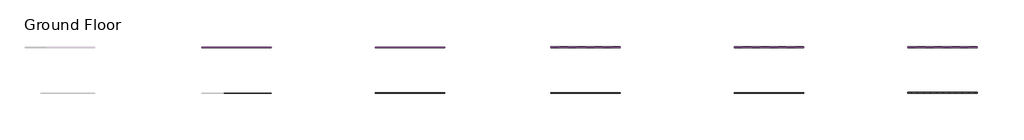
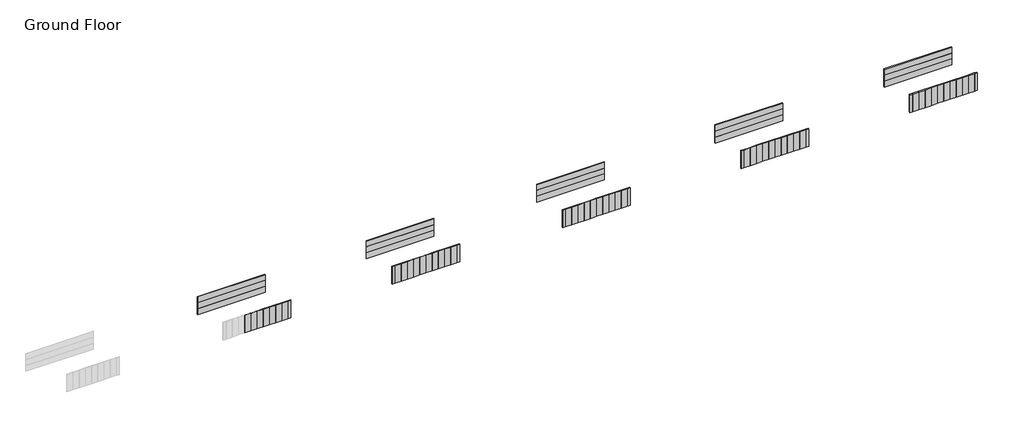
# One storey, part 2 of 11: 71 plates.
"""IFC4 building model written with IfcOpenShell, lengths in millimetres."""

import ifcopenshell
import ifcopenshell.guid

model = None  # the IFC model being written
_history = None  # IfcOwnerHistory: only IFC2X3 demands one
_inside = {}  # id of a spatial element -> (the spatial element, [elements in it])
_under = {}  # id of a project, library or spatial element -> (it, [spatial elements below it])
_declared = {}  # id of a project -> (the project, [libraries it declares])
_typed = {}  # id of a type object -> (the type object, [elements of that type])
_made_of = {}  # id of a material, layer set ... -> (it, [elements and type objects made of it])


def new_model(schema):
    """Start an empty IFC model of exactly this schema.

    Asked for "IFC4X3", IfcOpenShell would pick the latest addendum, in which some entities
    have other attributes; the version numbers below select the first issue.
    IFC2X3 requires an IfcOwnerHistory on every rooted entity: one is made here for all.
    """
    global model, _history
    if schema == "IFC4X3":
        model = ifcopenshell.file(schema_version=(4, 3, 0, 0))
    else:
        model = ifcopenshell.file(schema=schema)
    _inside.clear()
    _under.clear()
    _declared.clear()
    _typed.clear()
    _made_of.clear()
    _history = None
    if model.schema == "IFC2X3":
        org = make("IfcOrganization", Name="unknown")
        user = make(
            "IfcPersonAndOrganization",
            ThePerson=make("IfcPerson", FamilyName="unknown"),
            TheOrganization=org,
        )
        app = make(
            "IfcApplication",
            ApplicationDeveloper=org,
            Version="unknown",
            ApplicationFullName="unknown",
            ApplicationIdentifier="unknown",
        )
        _history = make(
            "IfcOwnerHistory",
            OwningUser=user,
            OwningApplication=app,
            ChangeAction="ADDED",
            CreationDate=0,
        )
    return model


def make(cls, **values):
    """One entity of the class cls with the attributes given. An attribute that is None is left unset."""
    return model.create_entity(
        cls, **{name: value for name, value in values.items() if value is not None}
    )


def rooted(cls, **values):
    """An entity with a GlobalId (a new one), such as an element, a storey or a relation."""
    return make(cls, GlobalId=ifcopenshell.guid.new(), OwnerHistory=_history, **values)


def si_unit(unit_type, name, prefix=None):
    """IfcSIUnit, for example si_unit("LENGTHUNIT", "METRE", prefix="MILLI")."""
    return make("IfcSIUnit", UnitType=unit_type, Prefix=prefix, Name=name)


def assignment(units):
    """IfcUnitAssignment: the units of a project."""
    return None if units is None else make("IfcUnitAssignment", Units=units)


def point(xyz):
    """IfcCartesianPoint."""
    return None if xyz is None else make("IfcCartesianPoint", Coordinates=xyz)


def direction(xyz):
    """IfcDirection."""
    return None if xyz is None else make("IfcDirection", DirectionRatios=xyz)


def frame(location, z_axis=None, x_axis=None):
    """IfcAxis2Placement3D, a coordinate frame: its origin and axes. An axis left out is left unset."""
    return make(
        "IfcAxis2Placement3D",
        Location=point(location),
        Axis=direction(z_axis),
        RefDirection=direction(x_axis),
    )


def origin():
    """The frame at (0, 0, 0) with its axes left unset."""
    return frame((0.0, 0.0, 0.0))


def origin_with_axes():
    """The frame at (0, 0, 0) with the z axis (0, 0, 1) and the x axis (1, 0, 0) written out."""
    return frame((0.0, 0.0, 0.0), z_axis=(0.0, 0.0, 1.0), x_axis=(1.0, 0.0, 0.0))


def place(relative_to, where):
    """IfcLocalPlacement: puts the frame where relative to a parent placement (None: the world)."""
    return make(
        "IfcLocalPlacement", PlacementRelTo=relative_to, RelativePlacement=where
    )


def context(
    kind, dimensions, precision=None, world=None, true_north=None, identifier=None
):
    """IfcGeometricRepresentationContext, for example the 3D "Model" context."""
    return make(
        "IfcGeometricRepresentationContext",
        ContextIdentifier=identifier,
        ContextType=kind,
        CoordinateSpaceDimension=dimensions,
        Precision=precision,
        WorldCoordinateSystem=world,
        TrueNorth=true_north,
    )


def project(units=None, contexts=None):
    """IfcProject with its units and contexts."""
    return rooted(
        "IfcProject",
        Name="project",
        RepresentationContexts=contexts,
        UnitsInContext=assignment(units),
    )


def spatial(cls, under=None, at=None, **own):
    """A site, building, storey or space (cls), placed at a placement, below another one or the project."""
    s = rooted(cls, ObjectPlacement=at, **own)
    if under is not None:
        _under.setdefault(under.id(), (under, []))[1].append(s)
    return s


def polyline(points):
    """IfcPolyline through the points."""
    return make("IfcPolyline", Points=[point(p) for p in points])


def outline(outer, holes=None, kind="AREA"):
    """IfcArbitraryClosedProfileDef: a profile drawn as a closed curve; with holes, ...WithVoids."""
    if holes is None:
        return make("IfcArbitraryClosedProfileDef", ProfileType=kind, OuterCurve=outer)
    return make(
        "IfcArbitraryProfileDefWithVoids",
        ProfileType=kind,
        OuterCurve=outer,
        InnerCurves=holes,
    )


def extrude(swept, where, along, depth):
    """IfcExtrudedAreaSolid: the profile swept, set in the frame where, extruded along a direction by depth."""
    return make(
        "IfcExtrudedAreaSolid",
        SweptArea=swept,
        Position=where,
        ExtrudedDirection=direction(along),
        Depth=depth,
    )


def shape(context_of_items, identifier, shape_type, items):
    """IfcShapeRepresentation: the items that make up one representation, for example the "Body"."""
    return make(
        "IfcShapeRepresentation",
        ContextOfItems=context_of_items,
        RepresentationIdentifier=identifier,
        RepresentationType=shape_type,
        Items=items,
    )


def source(mapping_origin, context_of_items, identifier, shape_type, items):
    """IfcRepresentationMap: a shape defined once, which mapped items show again and again."""
    return make(
        "IfcRepresentationMap",
        MappingOrigin=mapping_origin,
        MappedRepresentation=shape(context_of_items, identifier, shape_type, items),
    )


def transform(
    local_origin,
    x_axis=None,
    y_axis=None,
    z_axis=None,
    scale=None,
    scale2=None,
    scale3=None,
    uniform=True,
):
    """IfcCartesianTransformationOperator3D, or its non-uniform kind. x_axis, y_axis, z_axis: its Axis1, 2, 3."""
    if uniform:
        return make(
            "IfcCartesianTransformationOperator3D",
            Axis1=direction(x_axis),
            Axis2=direction(y_axis),
            LocalOrigin=point(local_origin),
            Scale=scale,
            Axis3=direction(z_axis),
        )
    return make(
        "IfcCartesianTransformationOperator3DnonUniform",
        Axis1=direction(x_axis),
        Axis2=direction(y_axis),
        LocalOrigin=point(local_origin),
        Scale=scale,
        Axis3=direction(z_axis),
        Scale2=scale2,
        Scale3=scale3,
    )


def mapped(mapping_source, mapping_target):
    """IfcMappedItem: shows the shape of a source again, moved by a transform."""
    return make(
        "IfcMappedItem", MappingSource=mapping_source, MappingTarget=mapping_target
    )


def made_of(thing, what):
    """Note that an element or type object is made of a material, layer set ...; save() writes the relation."""
    if what is not None:
        _made_of.setdefault(what.id(), (what, []))[1].append(thing)
    return thing


def element(
    cls,
    number,
    at=None,
    inside=None,
    cuts=None,
    type_object=None,
    material=None,
    context=None,
    identifier="Body",
    shape_type=None,
    held_by="IfcProductDefinitionShape",
    body=None,
    shapes=None,
    **own,
):
    """One element of the class cls, such as IfcWall. Its Tag is "e" and its number.

    at: its placement. inside: the storey or other place that contains it. cuts: it is an
    opening in that element (IfcRelVoidsElement). A single representation is given by context,
    identifier, shape_type and body (its items); several are given by shapes. held_by: the class
    of the entity that holds the representations. save() writes the other relations.
    """
    e = rooted(cls, Tag="e%d" % number, ObjectPlacement=at, **own)
    if body is not None:
        shapes = [shape(context, identifier, shape_type, body)]
    if shapes is not None:
        e.Representation = make(held_by, Representations=shapes)
    if inside is not None:
        _inside.setdefault(inside.id(), (inside, []))[1].append(e)
    if cuts is not None:
        rooted(
            "IfcRelVoidsElement", RelatingBuildingElement=cuts, RelatedOpeningElement=e
        )
    if type_object is not None:
        _typed.setdefault(type_object.id(), (type_object, []))[1].append(e)
    return made_of(e, material)


def aggregate(whole, parts):
    """IfcRelAggregates: a whole, such as a stair, and the parts it consists of."""
    return rooted("IfcRelAggregates", RelatingObject=whole, RelatedObjects=parts)


def save(model, path):
    """Write the relations noted so far, then the file.

    IfcRelAggregates (storeys below a building ...), IfcRelContainedInSpatialStructure (elements
    in a storey), IfcRelDefinesByType, IfcRelAssociatesMaterial and IfcRelDeclares: one each for
    every whole, place, type object, material and project.
    """
    for whole, parts in _under.values():
        aggregate(whole, parts)
    for where, things in _inside.values():
        rooted(
            "IfcRelContainedInSpatialStructure",
            RelatedElements=things,
            RelatingStructure=where,
        )
    for kind, things in _typed.values():
        rooted("IfcRelDefinesByType", RelatedObjects=things, RelatingType=kind)
    for what, things in _made_of.values():
        rooted("IfcRelAssociatesMaterial", RelatedObjects=things, RelatingMaterial=what)
    for by, libraries in _declared.values():
        rooted("IfcRelDeclares", RelatingContext=by, RelatedDefinitions=libraries)
    model.write(path)


def system_panel_6eba0669(model_context):
    return source(origin(), model_context, "Body", "SweptSolid", [
        extrude(outline(polyline([(6000.0, 0.0), (-6000.0, 0.0), (-6000.0, 75.0), (6000.0, 75.0), (6000.0, 0.0)])), origin_with_axes(), (0.0, 0.0, 1.0), 1100.0),
    ])


def system_panel_884e9603(model_context):
    return source(origin(), model_context, "Body", "SweptSolid", [
        extrude(outline(polyline([(6000.0, 0.0), (-6000.0, 0.0), (-6000.0, 150.0), (6000.0, 150.0), (6000.0, 0.0)])), origin_with_axes(), (0.0, 0.0, 1.0), 1100.0),
    ])


def system_panel_50b8ebab(model_context):
    return source(origin(), model_context, "Body", "SweptSolid", [
        extrude(outline(polyline([(6000.0, 0.0), (-6000.0, 0.0), (-6000.0, 200.0), (6000.0, 200.0), (6000.0, 0.0)])), origin_with_axes(), (0.0, 0.0, 1.0), 1100.0),
    ])


def system_panel_92c971d1(model_context):
    return source(origin(), model_context, "Body", "SweptSolid", [
        extrude(outline(polyline([(6000.0, 0.0), (-6000.0, 0.0), (-6000.0, 125.0), (6000.0, 125.0), (6000.0, 0.0)])), origin_with_axes(), (0.0, 0.0, 1.0), 1100.0),
    ])


def system_panel_dae39a37(model_context):
    return source(origin(), model_context, "Body", "SweptSolid", [
        extrude(outline(polyline([(250.0, 0.0), (-250.0, 0.0), (-250.0, 75.0), (250.0, 75.0), (250.0, 0.0)])), origin_with_axes(), (0.0, 0.0, 1.0), 3300.0),
    ])


def system_panel_6d159058(model_context):
    return source(origin(), model_context, "Body", "SweptSolid", [
        extrude(outline(polyline([(550.0, 0.0), (-550.0, 0.0), (-550.0, 75.0), (550.0, 75.0), (550.0, 0.0)])), origin_with_axes(), (0.0, 0.0, 1.0), 3300.0),
    ])


def system_panel_0b45720e(model_context):
    return source(origin(), model_context, "Body", "SweptSolid", [
        extrude(outline(polyline([(6000.0, 0.0), (-6000.0, 0.0), (-6000.0, 100.0), (6000.0, 100.0), (6000.0, 0.0)])), origin_with_axes(), (0.0, 0.0, 1.0), 1100.0),
    ])


def system_panel_6aaf0e04(model_context):
    return source(origin(), model_context, "Body", "SweptSolid", [
        extrude(outline(polyline([(250.0, 0.0), (-250.0, 0.0), (-250.0, 100.0), (250.0, 100.0), (250.0, 0.0)])), origin_with_axes(), (0.0, 0.0, 1.0), 3300.0),
    ])


def system_panel_21b04525(model_context):
    return source(origin(), model_context, "Body", "SweptSolid", [
        extrude(outline(polyline([(550.0, 0.0), (-550.0, 0.0), (-550.0, 100.0), (550.0, 100.0), (550.0, 0.0)])), origin_with_axes(), (0.0, 0.0, 1.0), 3300.0),
    ])


def system_panel_03f7c1e1(model_context):
    return source(origin(), model_context, "Body", "SweptSolid", [
        extrude(outline(polyline([(250.0, 0.0), (-250.0, 0.0), (-250.0, 125.0), (250.0, 125.0), (250.0, 0.0)])), origin_with_axes(), (0.0, 0.0, 1.0), 3300.0),
    ])


def system_panel_6af241ba(model_context):
    return source(origin(), model_context, "Body", "SweptSolid", [
        extrude(outline(polyline([(550.0, 0.0), (-550.0, 0.0), (-550.0, 125.0), (550.0, 125.0), (550.0, 0.0)])), origin_with_axes(), (0.0, 0.0, 1.0), 3300.0),
    ])


def system_panel_1fb53309(model_context):
    return source(origin(), model_context, "Body", "SweptSolid", [
        extrude(outline(polyline([(250.0, 0.0), (-250.0, 0.0), (-250.0, 150.0), (250.0, 150.0), (250.0, 0.0)])), origin_with_axes(), (0.0, 0.0, 1.0), 3300.0),
    ])


def system_panel_07ade12d(model_context):
    return source(origin(), model_context, "Body", "SweptSolid", [
        extrude(outline(polyline([(550.0, 0.0), (-550.0, 0.0), (-550.0, 150.0), (550.0, 150.0), (550.0, 0.0)])), origin_with_axes(), (0.0, 0.0, 1.0), 3300.0),
    ])


def system_panel_2bcd8dc4(model_context):
    return source(origin(), model_context, "Body", "SweptSolid", [
        extrude(outline(polyline([(250.0, 0.0), (-250.0, 0.0), (-250.0, 200.0), (250.0, 200.0), (250.0, 0.0)])), origin_with_axes(), (0.0, 0.0, 1.0), 3300.0),
    ])


def system_panel_894761f5(model_context):
    return source(origin(), model_context, "Body", "SweptSolid", [
        extrude(outline(polyline([(550.0, 0.0), (-550.0, 0.0), (-550.0, 200.0), (550.0, 200.0), (550.0, 0.0)])), origin_with_axes(), (0.0, 0.0, 1.0), 3300.0),
    ])


model = new_model("IFC4")

# Units and contexts
model_context = context("Model", 3, world=origin())
ifc_project = project(units=[si_unit("LENGTHUNIT", "METRE", prefix="MILLI")], contexts=[model_context])

# Site, building, storey
site = spatial("IfcSite", under=ifc_project)
building = spatial("IfcBuilding", under=site)
storey = spatial("IfcBuildingStorey", under=building, Name="Ground Floor", Elevation=0.0)

# Plates
placement = place(None, origin())
system_panel_shape = system_panel_6eba0669(model_context)
element("IfcPlate", 1, ObjectType="System Panel : MetecnoPanel_75mm_Plain_Surfmist", at=placement, inside=storey, context=model_context, shape_type="MappedRepresentation", body=[
    mapped(system_panel_shape, transform((15128.5594541, 14597.4637552, 0.0), x_axis=(1.0, 0.0, 0.0), y_axis=(0.0, 1.0, 0.0), z_axis=(0.0, 0.0, 1.0))),
])
element("IfcPlate", 2, ObjectType="System Panel : MetecnoPanel_75mm_Plain_Surfmist", at=placement, inside=storey, context=model_context, shape_type="MappedRepresentation", body=[
    mapped(system_panel_shape, transform((15128.5594541, 14597.4637552, 1100.0), x_axis=(1.0, 0.0, 0.0), y_axis=(0.0, 1.0, 0.0), z_axis=(0.0, 0.0, 1.0))),
])
element("IfcPlate", 3, ObjectType="System Panel : MetecnoPanel_75mm_Plain_Surfmist", at=placement, inside=storey, context=model_context, shape_type="MappedRepresentation", body=[
    mapped(system_panel_shape, transform((15128.5594541, 14597.4637552, 2200.0), x_axis=(1.0, 0.0, 0.0), y_axis=(0.0, 1.0, 0.0), z_axis=(0.0, 0.0, 1.0))),
])
system_panel_2_shape = system_panel_884e9603(model_context)
element("IfcPlate", 4, ObjectType="System Panel : MetecnoPanel_150mm_Plain_Surfmist", at=placement, inside=storey, context=model_context, shape_type="MappedRepresentation", body=[
    mapped(system_panel_2_shape, transform((107128.5594541, 14597.4637552, 0.0), x_axis=(1.0, 0.0, 0.0), y_axis=(0.0, 1.0, 0.0), z_axis=(0.0, 0.0, 1.0))),
])
element("IfcPlate", 5, ObjectType="System Panel : MetecnoPanel_150mm_Plain_Surfmist", at=placement, inside=storey, context=model_context, shape_type="MappedRepresentation", body=[
    mapped(system_panel_2_shape, transform((107128.5594541, 14597.4637552, 1100.0), x_axis=(1.0, 0.0, 0.0), y_axis=(0.0, 1.0, 0.0), z_axis=(0.0, 0.0, 1.0))),
])
element("IfcPlate", 6, ObjectType="System Panel : MetecnoPanel_150mm_Plain_Surfmist", at=placement, inside=storey, context=model_context, shape_type="MappedRepresentation", body=[
    mapped(system_panel_2_shape, transform((107128.5594541, 14597.4637552, 2200.0), x_axis=(1.0, 0.0, 0.0), y_axis=(0.0, 1.0, 0.0), z_axis=(0.0, 0.0, 1.0))),
])
system_panel_3_shape = system_panel_50b8ebab(model_context)
element("IfcPlate", 7, ObjectType="System Panel : MetecnoPanel_200mm_Plain_Surfmist", at=placement, inside=storey, context=model_context, shape_type="MappedRepresentation", body=[
    mapped(system_panel_3_shape, transform((137128.5594541, 14597.4637552, 0.0), x_axis=(1.0, 0.0, 0.0), y_axis=(0.0, 1.0, 0.0), z_axis=(0.0, 0.0, 1.0))),
])
element("IfcPlate", 8, ObjectType="System Panel : MetecnoPanel_200mm_Plain_Surfmist", at=placement, inside=storey, context=model_context, shape_type="MappedRepresentation", body=[
    mapped(system_panel_3_shape, transform((137128.5594541, 14597.4637552, 1100.0), x_axis=(1.0, 0.0, 0.0), y_axis=(0.0, 1.0, 0.0), z_axis=(0.0, 0.0, 1.0))),
])
element("IfcPlate", 9, ObjectType="System Panel : MetecnoPanel_200mm_Plain_Surfmist", at=placement, inside=storey, context=model_context, shape_type="MappedRepresentation", body=[
    mapped(system_panel_3_shape, transform((137128.5594541, 14597.4637552, 2200.0), x_axis=(1.0, 0.0, 0.0), y_axis=(0.0, 1.0, 0.0), z_axis=(0.0, 0.0, 1.0))),
])
system_panel_4_shape = system_panel_92c971d1(model_context)
element("IfcPlate", 10, ObjectType="System Panel : MetecnoPanel_125mm_Plain_Surfmist", at=placement, inside=storey, context=model_context, shape_type="MappedRepresentation", body=[
    mapped(system_panel_4_shape, transform((75428.5594541, 14597.4637552, 0.0), x_axis=(1.0, 0.0, 0.0), y_axis=(0.0, 1.0, 0.0), z_axis=(0.0, 0.0, 1.0))),
])
element("IfcPlate", 11, ObjectType="System Panel : MetecnoPanel_125mm_Plain_Surfmist", at=placement, inside=storey, context=model_context, shape_type="MappedRepresentation", body=[
    mapped(system_panel_4_shape, transform((75428.5594541, 14597.4637552, 1100.0), x_axis=(1.0, 0.0, 0.0), y_axis=(0.0, 1.0, 0.0), z_axis=(0.0, 0.0, 1.0))),
])
element("IfcPlate", 12, ObjectType="System Panel : MetecnoPanel_125mm_Plain_Surfmist", at=placement, inside=storey, context=model_context, shape_type="MappedRepresentation", body=[
    mapped(system_panel_4_shape, transform((75428.5594541, 14597.4637552, 2200.0), x_axis=(1.0, 0.0, 0.0), y_axis=(0.0, 1.0, 0.0), z_axis=(0.0, 0.0, 1.0))),
])
system_panel_5_shape = system_panel_dae39a37(model_context)
element("IfcPlate", 13, ObjectType="System Panel : MetecnoPanel_75mm_Plain_Surfmist", at=placement, inside=storey, context=model_context, shape_type="MappedRepresentation", body=[
    mapped(system_panel_5_shape, transform((20878.5594541, 6697.4637552, 0.0), x_axis=(1.0, 0.0, 0.0), y_axis=(0.0, 1.0, 0.0), z_axis=(0.0, 0.0, 1.0))),
])
system_panel_6_shape = system_panel_6d159058(model_context)
element("IfcPlate", 14, ObjectType="System Panel : MetecnoPanel_75mm_Plain_Surfmist", at=placement, inside=storey, context=model_context, shape_type="MappedRepresentation", body=[
    mapped(system_panel_6_shape, transform((13478.5594541, 6697.4637552, 0.0), x_axis=(1.0, 0.0, 0.0), y_axis=(0.0, 1.0, 0.0), z_axis=(0.0, 0.0, 1.0))),
])
element("IfcPlate", 15, ObjectType="System Panel : MetecnoPanel_75mm_Plain_Surfmist", at=placement, inside=storey, context=model_context, shape_type="MappedRepresentation", body=[
    mapped(system_panel_6_shape, transform((14578.5594541, 6697.4637552, 0.0), x_axis=(1.0, 0.0, 0.0), y_axis=(0.0, 1.0, 0.0), z_axis=(0.0, 0.0, 1.0))),
])
element("IfcPlate", 16, ObjectType="System Panel : MetecnoPanel_75mm_Plain_Surfmist", at=placement, inside=storey, context=model_context, shape_type="MappedRepresentation", body=[
    mapped(system_panel_6_shape, transform((15678.5594541, 6697.4637552, 0.0), x_axis=(1.0, 0.0, 0.0), y_axis=(0.0, 1.0, 0.0), z_axis=(0.0, 0.0, 1.0))),
])
element("IfcPlate", 17, ObjectType="System Panel : MetecnoPanel_75mm_Plain_Surfmist", at=placement, inside=storey, context=model_context, shape_type="MappedRepresentation", body=[
    mapped(system_panel_6_shape, transform((16778.5594541, 6697.4637552, 0.0), x_axis=(1.0, 0.0, 0.0), y_axis=(0.0, 1.0, 0.0), z_axis=(0.0, 0.0, 1.0))),
])
element("IfcPlate", 18, ObjectType="System Panel : MetecnoPanel_75mm_Plain_Surfmist", at=placement, inside=storey, context=model_context, shape_type="MappedRepresentation", body=[
    mapped(system_panel_6_shape, transform((17878.5594541, 6697.4637552, 0.0), x_axis=(1.0, 0.0, 0.0), y_axis=(0.0, 1.0, 0.0), z_axis=(0.0, 0.0, 1.0))),
])
element("IfcPlate", 19, ObjectType="System Panel : MetecnoPanel_75mm_Plain_Surfmist", at=placement, inside=storey, context=model_context, shape_type="MappedRepresentation", body=[
    mapped(system_panel_6_shape, transform((18978.5594541, 6697.4637552, 0.0), x_axis=(1.0, 0.0, 0.0), y_axis=(0.0, 1.0, 0.0), z_axis=(0.0, 0.0, 1.0))),
])
element("IfcPlate", 20, ObjectType="System Panel : MetecnoPanel_75mm_Plain_Surfmist", at=placement, inside=storey, context=model_context, shape_type="MappedRepresentation", body=[
    mapped(system_panel_6_shape, transform((20078.5594541, 6697.4637552, 0.0), x_axis=(1.0, 0.0, 0.0), y_axis=(0.0, 1.0, 0.0), z_axis=(0.0, 0.0, 1.0))),
])
system_panel_7_shape = system_panel_0b45720e(model_context)
element("IfcPlate", 21, ObjectType="System Panel : MetecnoPanel_100mm_Plain_Surfmist", at=placement, inside=storey, context=model_context, shape_type="MappedRepresentation", body=[
    mapped(system_panel_7_shape, transform((45128.5594541, 14597.4637552, 0.0), x_axis=(1.0, 0.0, 0.0), y_axis=(0.0, 1.0, 0.0), z_axis=(0.0, 0.0, 1.0))),
])
element("IfcPlate", 22, ObjectType="System Panel : MetecnoPanel_100mm_Plain_Surfmist", at=placement, inside=storey, context=model_context, shape_type="MappedRepresentation", body=[
    mapped(system_panel_7_shape, transform((45128.5594541, 14597.4637552, 1100.0), x_axis=(1.0, 0.0, 0.0), y_axis=(0.0, 1.0, 0.0), z_axis=(0.0, 0.0, 1.0))),
])
element("IfcPlate", 23, ObjectType="System Panel : MetecnoPanel_100mm_Plain_Surfmist", at=placement, inside=storey, context=model_context, shape_type="MappedRepresentation", body=[
    mapped(system_panel_7_shape, transform((45128.5594541, 14597.4637552, 2200.0), x_axis=(1.0, 0.0, 0.0), y_axis=(0.0, 1.0, 0.0), z_axis=(0.0, 0.0, 1.0))),
])
system_panel_8_shape = system_panel_6aaf0e04(model_context)
element("IfcPlate", 24, ObjectType="System Panel : MetecnoPanel_100mm_Plain_Surfmist", at=placement, inside=storey, context=model_context, shape_type="MappedRepresentation", body=[
    mapped(system_panel_8_shape, transform((39378.5594541, 6697.4637552, 0.0), x_axis=(1.0, 0.0, 0.0), y_axis=(0.0, 1.0, 0.0), z_axis=(0.0, 0.0, 1.0))),
])
element("IfcPlate", 25, ObjectType="System Panel : MetecnoPanel_100mm_Plain_Surfmist", at=placement, inside=storey, context=model_context, shape_type="MappedRepresentation", body=[
    mapped(system_panel_8_shape, transform((50878.5594541, 6697.4637552, 0.0), x_axis=(1.0, 0.0, 0.0), y_axis=(0.0, 1.0, 0.0), z_axis=(0.0, 0.0, 1.0))),
])
system_panel_9_shape = system_panel_21b04525(model_context)
element("IfcPlate", 26, ObjectType="System Panel : MetecnoPanel_100mm_Plain_Surfmist", at=placement, inside=storey, context=model_context, shape_type="MappedRepresentation", body=[
    mapped(system_panel_9_shape, transform((42378.5594541, 6697.4637552, 0.0), x_axis=(1.0, 0.0, 0.0), y_axis=(0.0, 1.0, 0.0), z_axis=(0.0, 0.0, 1.0))),
])
element("IfcPlate", 27, ObjectType="System Panel : MetecnoPanel_100mm_Plain_Surfmist", at=placement, inside=storey, context=model_context, shape_type="MappedRepresentation", body=[
    mapped(system_panel_9_shape, transform((43478.5594541, 6697.4637552, 0.0), x_axis=(1.0, 0.0, 0.0), y_axis=(0.0, 1.0, 0.0), z_axis=(0.0, 0.0, 1.0))),
])
element("IfcPlate", 28, ObjectType="System Panel : MetecnoPanel_100mm_Plain_Surfmist", at=placement, inside=storey, context=model_context, shape_type="MappedRepresentation", body=[
    mapped(system_panel_9_shape, transform((44578.5594541, 6697.4637552, 0.0), x_axis=(1.0, 0.0, 0.0), y_axis=(0.0, 1.0, 0.0), z_axis=(0.0, 0.0, 1.0))),
])
element("IfcPlate", 29, ObjectType="System Panel : MetecnoPanel_100mm_Plain_Surfmist", at=placement, inside=storey, context=model_context, shape_type="MappedRepresentation", body=[
    mapped(system_panel_9_shape, transform((45678.5594541, 6697.4637552, 0.0), x_axis=(1.0, 0.0, 0.0), y_axis=(0.0, 1.0, 0.0), z_axis=(0.0, 0.0, 1.0))),
])
element("IfcPlate", 30, ObjectType="System Panel : MetecnoPanel_100mm_Plain_Surfmist", at=placement, inside=storey, context=model_context, shape_type="MappedRepresentation", body=[
    mapped(system_panel_9_shape, transform((46778.5594541, 6697.4637552, 0.0), x_axis=(1.0, 0.0, 0.0), y_axis=(0.0, 1.0, 0.0), z_axis=(0.0, 0.0, 1.0))),
])
element("IfcPlate", 31, ObjectType="System Panel : MetecnoPanel_100mm_Plain_Surfmist", at=placement, inside=storey, context=model_context, shape_type="MappedRepresentation", body=[
    mapped(system_panel_9_shape, transform((47878.5594541, 6697.4637552, 0.0), x_axis=(1.0, 0.0, 0.0), y_axis=(0.0, 1.0, 0.0), z_axis=(0.0, 0.0, 1.0))),
])
element("IfcPlate", 32, ObjectType="System Panel : MetecnoPanel_100mm_Plain_Surfmist", at=placement, inside=storey, context=model_context, shape_type="MappedRepresentation", body=[
    mapped(system_panel_9_shape, transform((48978.5594541, 6697.4637552, 0.0), x_axis=(1.0, 0.0, 0.0), y_axis=(0.0, 1.0, 0.0), z_axis=(0.0, 0.0, 1.0))),
])
element("IfcPlate", 33, ObjectType="System Panel : MetecnoPanel_100mm_Plain_Surfmist", at=placement, inside=storey, context=model_context, shape_type="MappedRepresentation", body=[
    mapped(system_panel_9_shape, transform((50078.5594541, 6697.4637552, 0.0), x_axis=(1.0, 0.0, 0.0), y_axis=(0.0, 1.0, 0.0), z_axis=(0.0, 0.0, 1.0))),
])
element("IfcPlate", 34, ObjectType="System Panel : MetecnoPanel_100mm_Plain_Surfmist", at=placement, inside=storey, context=model_context, shape_type="MappedRepresentation", body=[
    mapped(system_panel_9_shape, transform((41278.5594541, 6697.4637552, 0.0), x_axis=(1.0, 0.0, 0.0), y_axis=(0.0, 1.0, 0.0), z_axis=(0.0, 0.0, 1.0))),
])
element("IfcPlate", 35, ObjectType="System Panel : MetecnoPanel_100mm_Plain_Surfmist", at=placement, inside=storey, context=model_context, shape_type="MappedRepresentation", body=[
    mapped(system_panel_9_shape, transform((40178.5594541, 6697.4637552, 0.0), x_axis=(1.0, 0.0, 0.0), y_axis=(0.0, 1.0, 0.0), z_axis=(0.0, 0.0, 1.0))),
])
system_panel_10_shape = system_panel_03f7c1e1(model_context)
element("IfcPlate", 36, ObjectType="System Panel : MetecnoPanel_125mm_Plain_Surfmist", at=placement, inside=storey, context=model_context, shape_type="MappedRepresentation", body=[
    mapped(system_panel_10_shape, transform((69678.5594541, 6697.4637552, 0.0), x_axis=(1.0, 0.0, 0.0), y_axis=(0.0, 1.0, 0.0), z_axis=(0.0, 0.0, 1.0))),
])
element("IfcPlate", 37, ObjectType="System Panel : MetecnoPanel_125mm_Plain_Surfmist", at=placement, inside=storey, context=model_context, shape_type="MappedRepresentation", body=[
    mapped(system_panel_10_shape, transform((81178.5594541, 6697.4637552, 0.0), x_axis=(1.0, 0.0, 0.0), y_axis=(0.0, 1.0, 0.0), z_axis=(0.0, 0.0, 1.0))),
])
system_panel_11_shape = system_panel_6af241ba(model_context)
element("IfcPlate", 38, ObjectType="System Panel : MetecnoPanel_125mm_Plain_Surfmist", at=placement, inside=storey, context=model_context, shape_type="MappedRepresentation", body=[
    mapped(system_panel_11_shape, transform((72678.5594541, 6697.4637552, 0.0), x_axis=(1.0, 0.0, 0.0), y_axis=(0.0, 1.0, 0.0), z_axis=(0.0, 0.0, 1.0))),
])
element("IfcPlate", 39, ObjectType="System Panel : MetecnoPanel_125mm_Plain_Surfmist", at=placement, inside=storey, context=model_context, shape_type="MappedRepresentation", body=[
    mapped(system_panel_11_shape, transform((73778.5594541, 6697.4637552, 0.0), x_axis=(1.0, 0.0, 0.0), y_axis=(0.0, 1.0, 0.0), z_axis=(0.0, 0.0, 1.0))),
])
element("IfcPlate", 40, ObjectType="System Panel : MetecnoPanel_125mm_Plain_Surfmist", at=placement, inside=storey, context=model_context, shape_type="MappedRepresentation", body=[
    mapped(system_panel_11_shape, transform((74878.5594541, 6697.4637552, 0.0), x_axis=(1.0, 0.0, 0.0), y_axis=(0.0, 1.0, 0.0), z_axis=(0.0, 0.0, 1.0))),
])
element("IfcPlate", 41, ObjectType="System Panel : MetecnoPanel_125mm_Plain_Surfmist", at=placement, inside=storey, context=model_context, shape_type="MappedRepresentation", body=[
    mapped(system_panel_11_shape, transform((75978.5594541, 6697.4637552, 0.0), x_axis=(1.0, 0.0, 0.0), y_axis=(0.0, 1.0, 0.0), z_axis=(0.0, 0.0, 1.0))),
])
element("IfcPlate", 42, ObjectType="System Panel : MetecnoPanel_125mm_Plain_Surfmist", at=placement, inside=storey, context=model_context, shape_type="MappedRepresentation", body=[
    mapped(system_panel_11_shape, transform((77078.5594541, 6697.4637552, 0.0), x_axis=(1.0, 0.0, 0.0), y_axis=(0.0, 1.0, 0.0), z_axis=(0.0, 0.0, 1.0))),
])
element("IfcPlate", 43, ObjectType="System Panel : MetecnoPanel_125mm_Plain_Surfmist", at=placement, inside=storey, context=model_context, shape_type="MappedRepresentation", body=[
    mapped(system_panel_11_shape, transform((78178.5594541, 6697.4637552, 0.0), x_axis=(1.0, 0.0, 0.0), y_axis=(0.0, 1.0, 0.0), z_axis=(0.0, 0.0, 1.0))),
])
element("IfcPlate", 44, ObjectType="System Panel : MetecnoPanel_125mm_Plain_Surfmist", at=placement, inside=storey, context=model_context, shape_type="MappedRepresentation", body=[
    mapped(system_panel_11_shape, transform((79278.5594541, 6697.4637552, 0.0), x_axis=(1.0, 0.0, 0.0), y_axis=(0.0, 1.0, 0.0), z_axis=(0.0, 0.0, 1.0))),
])
element("IfcPlate", 45, ObjectType="System Panel : MetecnoPanel_125mm_Plain_Surfmist", at=placement, inside=storey, context=model_context, shape_type="MappedRepresentation", body=[
    mapped(system_panel_11_shape, transform((80378.5594541, 6697.4637552, 0.0), x_axis=(1.0, 0.0, 0.0), y_axis=(0.0, 1.0, 0.0), z_axis=(0.0, 0.0, 1.0))),
])
element("IfcPlate", 46, ObjectType="System Panel : MetecnoPanel_125mm_Plain_Surfmist", at=placement, inside=storey, context=model_context, shape_type="MappedRepresentation", body=[
    mapped(system_panel_11_shape, transform((71578.5594541, 6697.4637552, 0.0), x_axis=(1.0, 0.0, 0.0), y_axis=(0.0, 1.0, 0.0), z_axis=(0.0, 0.0, 1.0))),
])
element("IfcPlate", 47, ObjectType="System Panel : MetecnoPanel_125mm_Plain_Surfmist", at=placement, inside=storey, context=model_context, shape_type="MappedRepresentation", body=[
    mapped(system_panel_11_shape, transform((70478.5594541, 6697.4637552, 0.0), x_axis=(1.0, 0.0, 0.0), y_axis=(0.0, 1.0, 0.0), z_axis=(0.0, 0.0, 1.0))),
])
system_panel_12_shape = system_panel_1fb53309(model_context)
element("IfcPlate", 48, ObjectType="System Panel : MetecnoPanel_150mm_Plain_Surfmist", at=placement, inside=storey, context=model_context, shape_type="MappedRepresentation", body=[
    mapped(system_panel_12_shape, transform((101378.5594541, 6697.4637552, 0.0), x_axis=(1.0, 0.0, 0.0), y_axis=(0.0, 1.0, 0.0), z_axis=(0.0, 0.0, 1.0))),
])
element("IfcPlate", 49, ObjectType="System Panel : MetecnoPanel_150mm_Plain_Surfmist", at=placement, inside=storey, context=model_context, shape_type="MappedRepresentation", body=[
    mapped(system_panel_12_shape, transform((112878.5594541, 6697.4637552, 0.0), x_axis=(1.0, 0.0, 0.0), y_axis=(0.0, 1.0, 0.0), z_axis=(0.0, 0.0, 1.0))),
])
system_panel_13_shape = system_panel_07ade12d(model_context)
element("IfcPlate", 50, ObjectType="System Panel : MetecnoPanel_150mm_Plain_Surfmist", at=placement, inside=storey, context=model_context, shape_type="MappedRepresentation", body=[
    mapped(system_panel_13_shape, transform((104378.5594541, 6697.4637552, 0.0), x_axis=(1.0, 0.0, 0.0), y_axis=(0.0, 1.0, 0.0), z_axis=(0.0, 0.0, 1.0))),
])
element("IfcPlate", 51, ObjectType="System Panel : MetecnoPanel_150mm_Plain_Surfmist", at=placement, inside=storey, context=model_context, shape_type="MappedRepresentation", body=[
    mapped(system_panel_13_shape, transform((105478.5594541, 6697.4637552, 0.0), x_axis=(1.0, 0.0, 0.0), y_axis=(0.0, 1.0, 0.0), z_axis=(0.0, 0.0, 1.0))),
])
element("IfcPlate", 52, ObjectType="System Panel : MetecnoPanel_150mm_Plain_Surfmist", at=placement, inside=storey, context=model_context, shape_type="MappedRepresentation", body=[
    mapped(system_panel_13_shape, transform((106578.5594541, 6697.4637552, 0.0), x_axis=(1.0, 0.0, 0.0), y_axis=(0.0, 1.0, 0.0), z_axis=(0.0, 0.0, 1.0))),
])
element("IfcPlate", 53, ObjectType="System Panel : MetecnoPanel_150mm_Plain_Surfmist", at=placement, inside=storey, context=model_context, shape_type="MappedRepresentation", body=[
    mapped(system_panel_13_shape, transform((107678.5594541, 6697.4637552, 0.0), x_axis=(1.0, 0.0, 0.0), y_axis=(0.0, 1.0, 0.0), z_axis=(0.0, 0.0, 1.0))),
])
element("IfcPlate", 54, ObjectType="System Panel : MetecnoPanel_150mm_Plain_Surfmist", at=placement, inside=storey, context=model_context, shape_type="MappedRepresentation", body=[
    mapped(system_panel_13_shape, transform((108778.5594541, 6697.4637552, 0.0), x_axis=(1.0, 0.0, 0.0), y_axis=(0.0, 1.0, 0.0), z_axis=(0.0, 0.0, 1.0))),
])
element("IfcPlate", 55, ObjectType="System Panel : MetecnoPanel_150mm_Plain_Surfmist", at=placement, inside=storey, context=model_context, shape_type="MappedRepresentation", body=[
    mapped(system_panel_13_shape, transform((109878.5594541, 6697.4637552, 0.0), x_axis=(1.0, 0.0, 0.0), y_axis=(0.0, 1.0, 0.0), z_axis=(0.0, 0.0, 1.0))),
])
element("IfcPlate", 56, ObjectType="System Panel : MetecnoPanel_150mm_Plain_Surfmist", at=placement, inside=storey, context=model_context, shape_type="MappedRepresentation", body=[
    mapped(system_panel_13_shape, transform((110978.5594541, 6697.4637552, 0.0), x_axis=(1.0, 0.0, 0.0), y_axis=(0.0, 1.0, 0.0), z_axis=(0.0, 0.0, 1.0))),
])
element("IfcPlate", 57, ObjectType="System Panel : MetecnoPanel_150mm_Plain_Surfmist", at=placement, inside=storey, context=model_context, shape_type="MappedRepresentation", body=[
    mapped(system_panel_13_shape, transform((112078.5594541, 6697.4637552, 0.0), x_axis=(1.0, 0.0, 0.0), y_axis=(0.0, 1.0, 0.0), z_axis=(0.0, 0.0, 1.0))),
])
element("IfcPlate", 58, ObjectType="System Panel : MetecnoPanel_150mm_Plain_Surfmist", at=placement, inside=storey, context=model_context, shape_type="MappedRepresentation", body=[
    mapped(system_panel_13_shape, transform((103278.5594541, 6697.4637552, 0.0), x_axis=(1.0, 0.0, 0.0), y_axis=(0.0, 1.0, 0.0), z_axis=(0.0, 0.0, 1.0))),
])
element("IfcPlate", 59, ObjectType="System Panel : MetecnoPanel_150mm_Plain_Surfmist", at=placement, inside=storey, context=model_context, shape_type="MappedRepresentation", body=[
    mapped(system_panel_13_shape, transform((102178.5594541, 6697.4637552, 0.0), x_axis=(1.0, 0.0, 0.0), y_axis=(0.0, 1.0, 0.0), z_axis=(0.0, 0.0, 1.0))),
])
system_panel_14_shape = system_panel_2bcd8dc4(model_context)
element("IfcPlate", 60, ObjectType="System Panel : MetecnoPanel_200mm_Plain_Surfmist", at=placement, inside=storey, context=model_context, shape_type="MappedRepresentation", body=[
    mapped(system_panel_14_shape, transform((131378.5594541, 6697.4637552, 0.0), x_axis=(1.0, 0.0, 0.0), y_axis=(0.0, 1.0, 0.0), z_axis=(0.0, 0.0, 1.0))),
])
element("IfcPlate", 61, ObjectType="System Panel : MetecnoPanel_200mm_Plain_Surfmist", at=placement, inside=storey, context=model_context, shape_type="MappedRepresentation", body=[
    mapped(system_panel_14_shape, transform((142878.5594541, 6697.4637552, 0.0), x_axis=(1.0, 0.0, 0.0), y_axis=(0.0, 1.0, 0.0), z_axis=(0.0, 0.0, 1.0))),
])
system_panel_15_shape = system_panel_894761f5(model_context)
element("IfcPlate", 62, ObjectType="System Panel : MetecnoPanel_200mm_Plain_Surfmist", at=placement, inside=storey, context=model_context, shape_type="MappedRepresentation", body=[
    mapped(system_panel_15_shape, transform((134378.5594541, 6697.4637552, 0.0), x_axis=(1.0, 0.0, 0.0), y_axis=(0.0, 1.0, 0.0), z_axis=(0.0, 0.0, 1.0))),
])
element("IfcPlate", 63, ObjectType="System Panel : MetecnoPanel_200mm_Plain_Surfmist", at=placement, inside=storey, context=model_context, shape_type="MappedRepresentation", body=[
    mapped(system_panel_15_shape, transform((135478.5594541, 6697.4637552, 0.0), x_axis=(1.0, 0.0, 0.0), y_axis=(0.0, 1.0, 0.0), z_axis=(0.0, 0.0, 1.0))),
])
element("IfcPlate", 64, ObjectType="System Panel : MetecnoPanel_200mm_Plain_Surfmist", at=placement, inside=storey, context=model_context, shape_type="MappedRepresentation", body=[
    mapped(system_panel_15_shape, transform((136578.5594541, 6697.4637552, 0.0), x_axis=(1.0, 0.0, 0.0), y_axis=(0.0, 1.0, 0.0), z_axis=(0.0, 0.0, 1.0))),
])
element("IfcPlate", 65, ObjectType="System Panel : MetecnoPanel_200mm_Plain_Surfmist", at=placement, inside=storey, context=model_context, shape_type="MappedRepresentation", body=[
    mapped(system_panel_15_shape, transform((137678.5594541, 6697.4637552, 0.0), x_axis=(1.0, 0.0, 0.0), y_axis=(0.0, 1.0, 0.0), z_axis=(0.0, 0.0, 1.0))),
])
element("IfcPlate", 66, ObjectType="System Panel : MetecnoPanel_200mm_Plain_Surfmist", at=placement, inside=storey, context=model_context, shape_type="MappedRepresentation", body=[
    mapped(system_panel_15_shape, transform((138778.5594541, 6697.4637552, 0.0), x_axis=(1.0, 0.0, 0.0), y_axis=(0.0, 1.0, 0.0), z_axis=(0.0, 0.0, 1.0))),
])
element("IfcPlate", 67, ObjectType="System Panel : MetecnoPanel_200mm_Plain_Surfmist", at=placement, inside=storey, context=model_context, shape_type="MappedRepresentation", body=[
    mapped(system_panel_15_shape, transform((139878.5594541, 6697.4637552, 0.0), x_axis=(1.0, 0.0, 0.0), y_axis=(0.0, 1.0, 0.0), z_axis=(0.0, 0.0, 1.0))),
])
element("IfcPlate", 68, ObjectType="System Panel : MetecnoPanel_200mm_Plain_Surfmist", at=placement, inside=storey, context=model_context, shape_type="MappedRepresentation", body=[
    mapped(system_panel_15_shape, transform((140978.5594541, 6697.4637552, 0.0), x_axis=(1.0, 0.0, 0.0), y_axis=(0.0, 1.0, 0.0), z_axis=(0.0, 0.0, 1.0))),
])
element("IfcPlate", 69, ObjectType="System Panel : MetecnoPanel_200mm_Plain_Surfmist", at=placement, inside=storey, context=model_context, shape_type="MappedRepresentation", body=[
    mapped(system_panel_15_shape, transform((142078.5594541, 6697.4637552, 0.0), x_axis=(1.0, 0.0, 0.0), y_axis=(0.0, 1.0, 0.0), z_axis=(0.0, 0.0, 1.0))),
])
element("IfcPlate", 70, ObjectType="System Panel : MetecnoPanel_200mm_Plain_Surfmist", at=placement, inside=storey, context=model_context, shape_type="MappedRepresentation", body=[
    mapped(system_panel_15_shape, transform((133278.5594541, 6697.4637552, 0.0), x_axis=(1.0, 0.0, 0.0), y_axis=(0.0, 1.0, 0.0), z_axis=(0.0, 0.0, 1.0))),
])
element("IfcPlate", 71, ObjectType="System Panel : MetecnoPanel_200mm_Plain_Surfmist", at=placement, inside=storey, context=model_context, shape_type="MappedRepresentation", body=[
    mapped(system_panel_15_shape, transform((132178.5594541, 6697.4637552, 0.0), x_axis=(1.0, 0.0, 0.0), y_axis=(0.0, 1.0, 0.0), z_axis=(0.0, 0.0, 1.0))),
])

save(model, "model.ifc")
